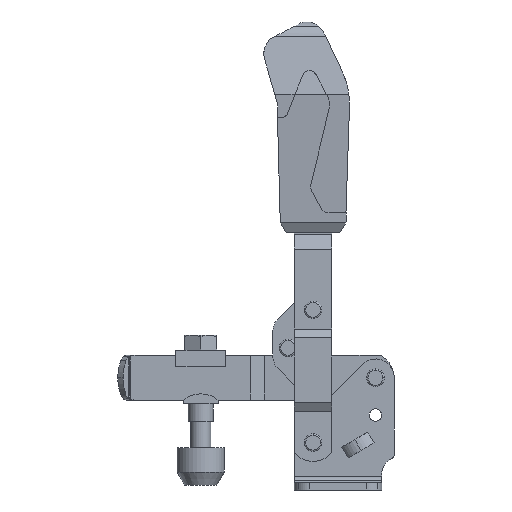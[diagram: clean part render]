
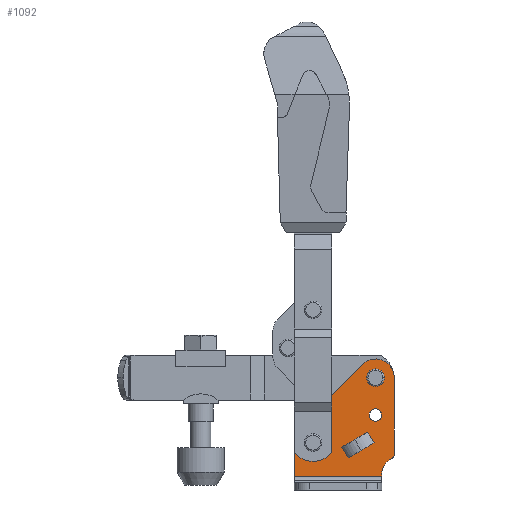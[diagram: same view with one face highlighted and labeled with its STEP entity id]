
A CAD part, front view. The second image highlights one B-rep face of the part: STEP entity #1092.
In plain terms, the highlighted planar face has unit normal (0, -1, 0).
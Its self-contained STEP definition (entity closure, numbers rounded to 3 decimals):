
#1092=ADVANCED_FACE('NONE',(#2351,#2352,#2353,#2354,#2355),#2356,.F.);
#2351=FACE_OUTER_BOUND('',#3901,.T.);
#2352=FACE_BOUND('',#3902,.T.);
#2353=FACE_BOUND('',#3903,.T.);
#2354=FACE_BOUND('',#3904,.T.);
#2355=FACE_BOUND('',#3905,.T.);
#2356=PLANE('',#3906);
#3901=EDGE_LOOP('',(#6298,#6299,#6300,#6301,#6302,#6303,#6304,#6305,#6306,#6307,#6308,#6309,#6310));
#3902=EDGE_LOOP('',(#6311,#6312,#6313,#6314));
#3903=EDGE_LOOP('',(#6315,#6316,#6317,#6318));
#3904=EDGE_LOOP('',(#6319,#6320,#6321,#6322));
#3905=EDGE_LOOP('',(#6323,#6324,#6325,#6326));
#3906=AXIS2_PLACEMENT_3D('',#6327,#6328,#6329);
#6298=ORIENTED_EDGE('',*,*,#9970,.F.);
#6299=ORIENTED_EDGE('',*,*,#9747,.F.);
#6300=ORIENTED_EDGE('',*,*,#9971,.F.);
#6301=ORIENTED_EDGE('',*,*,#9972,.T.);
#6302=ORIENTED_EDGE('',*,*,#9973,.F.);
#6303=ORIENTED_EDGE('',*,*,#9974,.F.);
#6304=ORIENTED_EDGE('',*,*,#9975,.T.);
#6305=ORIENTED_EDGE('',*,*,#9735,.T.);
#6306=ORIENTED_EDGE('',*,*,#9738,.F.);
#6307=ORIENTED_EDGE('',*,*,#9976,.F.);
#6308=ORIENTED_EDGE('',*,*,#9977,.F.);
#6309=ORIENTED_EDGE('',*,*,#9742,.F.);
#6310=ORIENTED_EDGE('',*,*,#9978,.F.);
#6311=ORIENTED_EDGE('',*,*,#9979,.T.);
#6312=ORIENTED_EDGE('',*,*,#9670,.T.);
#6313=ORIENTED_EDGE('',*,*,#9980,.T.);
#6314=ORIENTED_EDGE('',*,*,#9675,.T.);
#6315=ORIENTED_EDGE('',*,*,#9981,.T.);
#6316=ORIENTED_EDGE('',*,*,#9759,.T.);
#6317=ORIENTED_EDGE('',*,*,#9982,.T.);
#6318=ORIENTED_EDGE('',*,*,#9764,.T.);
#6319=ORIENTED_EDGE('',*,*,#9968,.T.);
#6320=ORIENTED_EDGE('',*,*,#9774,.T.);
#6321=ORIENTED_EDGE('',*,*,#9966,.T.);
#6322=ORIENTED_EDGE('',*,*,#9779,.T.);
#6323=ORIENTED_EDGE('',*,*,#9983,.F.);
#6324=ORIENTED_EDGE('',*,*,#9984,.F.);
#6325=ORIENTED_EDGE('',*,*,#9985,.F.);
#6326=ORIENTED_EDGE('',*,*,#9986,.F.);
#6327=CARTESIAN_POINT('',(23.5,-6.0,53.5));
#6328=DIRECTION('',(0.0,1.0,0.0));
#6329=DIRECTION('',(0.0,0.0,-1.0));
#9670=EDGE_CURVE('NONE',#11535,#11538,#11540,.T.);
#9675=EDGE_CURVE('NONE',#11542,#11545,#11547,.T.);
#9735=EDGE_CURVE('NONE',#11649,#11653,#11655,.T.);
#9738=EDGE_CURVE('NONE',#11657,#11653,#11660,.T.);
#9742=EDGE_CURVE('NONE',#11663,#11666,#11667,.T.);
#9747=EDGE_CURVE('NONE',#11672,#11675,#11676,.T.);
#9759=EDGE_CURVE('NONE',#11691,#11695,#11697,.T.);
#9764=EDGE_CURVE('NONE',#11700,#11704,#11706,.T.);
#9774=EDGE_CURVE('NONE',#11718,#11722,#11724,.T.);
#9779=EDGE_CURVE('NONE',#11727,#11731,#11733,.T.);
#9966=EDGE_CURVE('NONE',#11722,#11727,#12008,.T.);
#9968=EDGE_CURVE('NONE',#11731,#11718,#12010,.T.);
#9970=EDGE_CURVE('NONE',#11675,#12012,#12013,.T.);
#9971=EDGE_CURVE('NONE',#12014,#11672,#12015,.T.);
#9972=EDGE_CURVE('NONE',#12014,#12016,#12017,.T.);
#9973=EDGE_CURVE('NONE',#12018,#12016,#12019,.T.);
#9974=EDGE_CURVE('NONE',#12020,#12018,#12021,.T.);
#9975=EDGE_CURVE('NONE',#12020,#11649,#12022,.T.);
#9976=EDGE_CURVE('NONE',#12023,#11657,#12024,.T.);
#9977=EDGE_CURVE('NONE',#11666,#12023,#12025,.T.);
#9978=EDGE_CURVE('NONE',#12012,#11663,#12026,.T.);
#9979=EDGE_CURVE('NONE',#11545,#11535,#12027,.T.);
#9980=EDGE_CURVE('NONE',#11538,#11542,#12028,.T.);
#9981=EDGE_CURVE('NONE',#11704,#11691,#12029,.T.);
#9982=EDGE_CURVE('NONE',#11695,#11700,#12030,.T.);
#9983=EDGE_CURVE('NONE',#12031,#12032,#12033,.T.);
#9984=EDGE_CURVE('NONE',#12034,#12031,#12035,.T.);
#9985=EDGE_CURVE('NONE',#12036,#12034,#12037,.T.);
#9986=EDGE_CURVE('NONE',#12032,#12036,#12038,.T.);
#11535=VERTEX_POINT('',#14457);
#11538=VERTEX_POINT('NONE',#14461);
#11540=CIRCLE('',#14466,3.5);
#11542=VERTEX_POINT('',#14468);
#11545=VERTEX_POINT('NONE',#14472);
#11547=CIRCLE('',#14477,3.5);
#11649=VERTEX_POINT('',#14617);
#11653=VERTEX_POINT('NONE',#14622);
#11655=CIRCLE('',#14625,7.);
#11657=VERTEX_POINT('',#14627);
#11660=CIRCLE('',#14631,2.);
#11663=VERTEX_POINT('',#14634);
#11666=VERTEX_POINT('NONE',#14638);
#11667=CIRCLE('',#14639,7.5);
#11672=VERTEX_POINT('',#14645);
#11675=VERTEX_POINT('NONE',#14649);
#11676=CIRCLE('',#14650,7.5);
#11691=VERTEX_POINT('',#14668);
#11695=VERTEX_POINT('NONE',#14673);
#11697=CIRCLE('',#14678,2.5);
#11700=VERTEX_POINT('',#14681);
#11704=VERTEX_POINT('NONE',#14686);
#11706=CIRCLE('',#14691,2.5);
#11718=VERTEX_POINT('',#14705);
#11722=VERTEX_POINT('NONE',#14710);
#11724=CIRCLE('',#14715,2.5);
#11727=VERTEX_POINT('',#14718);
#11731=VERTEX_POINT('NONE',#14723);
#11733=CIRCLE('',#14728,2.5);
#12008=CIRCLE('',#15090,2.5);
#12010=CIRCLE('',#15092,2.5);
#12012=VERTEX_POINT('NONE',#15094);
#12013=LINE('',#15095,#15096);
#12014=VERTEX_POINT('NONE',#15097);
#12015=CIRCLE('',#15098,7.5);
#12016=VERTEX_POINT('NONE',#15099);
#12017=LINE('',#15100,#15101);
#12018=VERTEX_POINT('NONE',#15102);
#12019=LINE('',#15103,#15104);
#12020=VERTEX_POINT('NONE',#15105);
#12021=LINE('',#15106,#15107);
#12022=CIRCLE('',#15108,7.);
#12023=VERTEX_POINT('NONE',#15109);
#12024=CIRCLE('',#15110,2.);
#12025=LINE('',#15111,#15112);
#12026=CIRCLE('',#15113,7.5);
#12027=CIRCLE('',#15114,3.5);
#12028=CIRCLE('',#15115,3.5);
#12029=CIRCLE('',#15116,2.5);
#12030=CIRCLE('',#15117,2.5);
#12031=VERTEX_POINT('NONE',#15118);
#12032=VERTEX_POINT('NONE',#15119);
#12033=LINE('',#15120,#15121);
#12034=VERTEX_POINT('NONE',#15122);
#12035=LINE('',#15123,#15124);
#12036=VERTEX_POINT('NONE',#15125);
#12037=LINE('',#15126,#15127);
#12038=LINE('',#15128,#15129);
#14457=CARTESIAN_POINT('',(15.0,-6.0,48.5));
#14461=CARTESIAN_POINT('',(18.5,-6.0,45.0));
#14466=AXIS2_PLACEMENT_3D('',#18499,#18500,#18501);
#14468=CARTESIAN_POINT('',(15.0,-6.0,41.5));
#14472=CARTESIAN_POINT('',(11.5,-6.0,45.0));
#14477=AXIS2_PLACEMENT_3D('',#18506,#18507,#18508);
#14617=CARTESIAN_POINT('',(18.551,-6.0,9.989));
#14622=CARTESIAN_POINT('',(21.389,-6.0,12.571));
#14625=AXIS2_PLACEMENT_3D('',#18594,#18595,#18596);
#14627=CARTESIAN_POINT('',(22.2,-6.0,13.308));
#14631=AXIS2_PLACEMENT_3D('',#18598,#18599,#18600);
#14634=CARTESIAN_POINT('',(17.87,-6.0,51.929));
#14638=CARTESIAN_POINT('',(22.5,-6.0,45.));
#14639=AXIS2_PLACEMENT_3D('',#18605,#18606,#18607);
#14645=CARTESIAN_POINT('',(-16.929,-6.0,22.87));
#14649=CARTESIAN_POINT('',(-15.303,-6.0,25.303));
#14650=AXIS2_PLACEMENT_3D('',#18613,#18614,#18615);
#14668=CARTESIAN_POINT('',(15.0,-6.0,32.5));
#14673=CARTESIAN_POINT('',(17.5,-6.0,30.0));
#14678=AXIS2_PLACEMENT_3D('',#18632,#18633,#18634);
#14681=CARTESIAN_POINT('',(15.0,-6.0,27.5));
#14686=CARTESIAN_POINT('',(12.5,-6.0,30.0));
#14691=AXIS2_PLACEMENT_3D('',#18639,#18640,#18641);
#14705=CARTESIAN_POINT('',(-10.0,-6.0,21.5));
#14710=CARTESIAN_POINT('',(-7.5,-6.0,19.0));
#14715=AXIS2_PLACEMENT_3D('',#18654,#18655,#18656);
#14718=CARTESIAN_POINT('',(-10.0,-6.0,16.5));
#14723=CARTESIAN_POINT('',(-12.5,-6.0,19.0));
#14728=AXIS2_PLACEMENT_3D('',#18661,#18662,#18663);
#15090=AXIS2_PLACEMENT_3D('',#18945,#18946,#18947);
#15092=AXIS2_PLACEMENT_3D('',#18948,#18949,#18950);
#15094=CARTESIAN_POINT('',(9.697,-6.0,50.303));
#15095=CARTESIAN_POINT('',(18.197,-6.0,58.803));
#15096=VECTOR('',#18951,1000.0);
#15097=CARTESIAN_POINT('',(-17.5,-6.0,20.0));
#15098=AXIS2_PLACEMENT_3D('',#18952,#18953,#18954);
#15099=CARTESIAN_POINT('',(-17.5,-6.0,5.5));
#15100=CARTESIAN_POINT('',(-17.5,-6.0,53.5));
#15101=VECTOR('',#18955,1000.0);
#15102=CARTESIAN_POINT('',(17.5,-6.0,5.5));
#15103=CARTESIAN_POINT('',(23.5,-6.0,5.5));
#15104=VECTOR('',#18956,1000.0);
#15105=CARTESIAN_POINT('',(17.5,-6.0,6.3));
#15106=CARTESIAN_POINT('',(17.5,-6.0,53.5));
#15107=VECTOR('',#18957,1000.0);
#15108=AXIS2_PLACEMENT_3D('',#18958,#18959,#18960);
#15109=CARTESIAN_POINT('',(22.5,-6.0,14.362));
#15110=AXIS2_PLACEMENT_3D('',#18961,#18962,#18963);
#15111=CARTESIAN_POINT('',(22.5,-6.0,53.5));
#15112=VECTOR('',#18964,1000.0);
#15113=AXIS2_PLACEMENT_3D('',#18965,#18966,#18967);
#15114=AXIS2_PLACEMENT_3D('',#18968,#18969,#18970);
#15115=AXIS2_PLACEMENT_3D('',#18971,#18972,#18973);
#15116=AXIS2_PLACEMENT_3D('',#18974,#18975,#18976);
#15117=AXIS2_PLACEMENT_3D('',#18977,#18978,#18979);
#15118=CARTESIAN_POINT('',(11.875,-6.0,23.224));
#15119=CARTESIAN_POINT('',(1.535,-6.0,17.134));
#15120=CARTESIAN_POINT('',(11.875,-6.0,23.224));
#15121=VECTOR('',#18980,1000.0);
#15122=CARTESIAN_POINT('',(14.412,-6.0,18.916));
#15123=CARTESIAN_POINT('',(14.412,-6.0,18.916));
#15124=VECTOR('',#18981,1000.0);
#15125=CARTESIAN_POINT('',(4.073,-6.0,12.826));
#15126=CARTESIAN_POINT('',(4.073,-6.0,12.826));
#15127=VECTOR('',#18982,1000.0);
#15128=CARTESIAN_POINT('',(1.535,-6.0,17.134));
#15129=VECTOR('',#18983,1000.0);
#18499=CARTESIAN_POINT('',(15.0,-6.0,45.0));
#18500=DIRECTION('',(0.0,1.0,0.0));
#18501=DIRECTION('',(-1.0,0.0,0.0));
#18506=CARTESIAN_POINT('',(15.0,-6.0,45.0));
#18507=DIRECTION('',(0.0,1.0,0.0));
#18508=DIRECTION('',(-1.0,0.0,0.0));
#18594=CARTESIAN_POINT('',(24.5,-6.0,6.3));
#18595=DIRECTION('',(0.0,1.0,0.0));
#18596=DIRECTION('',(-1.0,0.0,0.0));
#18598=CARTESIAN_POINT('',(20.5,-6.0,14.362));
#18599=DIRECTION('',(0.0,1.0,0.0));
#18600=DIRECTION('',(-1.0,0.0,0.0));
#18605=CARTESIAN_POINT('',(15.,-6.0,45.));
#18606=DIRECTION('',(0.0,1.0,0.0));
#18607=DIRECTION('',(-1.0,0.0,0.0));
#18613=CARTESIAN_POINT('',(-10.,-6.0,20.));
#18614=DIRECTION('',(0.0,1.0,0.0));
#18615=DIRECTION('',(-1.0,0.0,0.0));
#18632=CARTESIAN_POINT('',(15.0,-6.0,30.0));
#18633=DIRECTION('',(0.0,1.0,0.0));
#18634=DIRECTION('',(-1.0,0.0,0.0));
#18639=CARTESIAN_POINT('',(15.0,-6.0,30.0));
#18640=DIRECTION('',(0.0,1.0,0.0));
#18641=DIRECTION('',(-1.0,0.0,0.0));
#18654=CARTESIAN_POINT('',(-10.0,-6.0,19.0));
#18655=DIRECTION('',(0.0,1.0,0.0));
#18656=DIRECTION('',(-1.0,0.0,0.0));
#18661=CARTESIAN_POINT('',(-10.0,-6.0,19.0));
#18662=DIRECTION('',(0.0,1.0,0.0));
#18663=DIRECTION('',(-1.0,0.0,0.0));
#18945=CARTESIAN_POINT('',(-10.0,-6.0,19.0));
#18946=DIRECTION('',(0.0,1.0,0.0));
#18947=DIRECTION('',(-1.0,0.0,0.0));
#18948=CARTESIAN_POINT('',(-10.0,-6.0,19.0));
#18949=DIRECTION('',(0.0,1.0,0.0));
#18950=DIRECTION('',(-1.0,0.0,0.0));
#18951=DIRECTION('',(0.707,0.0,0.707));
#18952=CARTESIAN_POINT('',(-10.,-6.0,20.));
#18953=DIRECTION('',(0.0,1.0,0.0));
#18954=DIRECTION('',(-1.0,0.0,0.0));
#18955=DIRECTION('',(0.0,0.0,-1.0));
#18956=DIRECTION('',(-1.0,0.0,-0.0));
#18957=DIRECTION('',(0.0,0.0,-1.0));
#18958=CARTESIAN_POINT('',(24.5,-6.0,6.3));
#18959=DIRECTION('',(0.0,1.0,0.0));
#18960=DIRECTION('',(-1.0,0.0,0.0));
#18961=CARTESIAN_POINT('',(20.5,-6.0,14.362));
#18962=DIRECTION('',(0.0,1.0,0.0));
#18963=DIRECTION('',(-1.0,0.0,0.0));
#18964=DIRECTION('',(0.0,0.0,-1.0));
#18965=CARTESIAN_POINT('',(15.,-6.0,45.));
#18966=DIRECTION('',(0.0,1.0,0.0));
#18967=DIRECTION('',(-1.0,0.0,0.0));
#18968=CARTESIAN_POINT('',(15.0,-6.0,45.0));
#18969=DIRECTION('',(0.0,1.0,0.0));
#18970=DIRECTION('',(-1.0,0.0,0.0));
#18971=CARTESIAN_POINT('',(15.0,-6.0,45.0));
#18972=DIRECTION('',(0.0,1.0,0.0));
#18973=DIRECTION('',(-1.0,0.0,0.0));
#18974=CARTESIAN_POINT('',(15.0,-6.0,30.0));
#18975=DIRECTION('',(0.0,1.0,0.0));
#18976=DIRECTION('',(-1.0,0.0,0.0));
#18977=CARTESIAN_POINT('',(15.0,-6.0,30.0));
#18978=DIRECTION('',(0.0,1.0,0.0));
#18979=DIRECTION('',(-1.0,0.0,0.0));
#18980=DIRECTION('',(-0.862,-0.0,-0.508));
#18981=DIRECTION('',(-0.508,0.0,0.862));
#18982=DIRECTION('',(0.862,0.0,0.508));
#18983=DIRECTION('',(0.508,0.0,-0.862));
